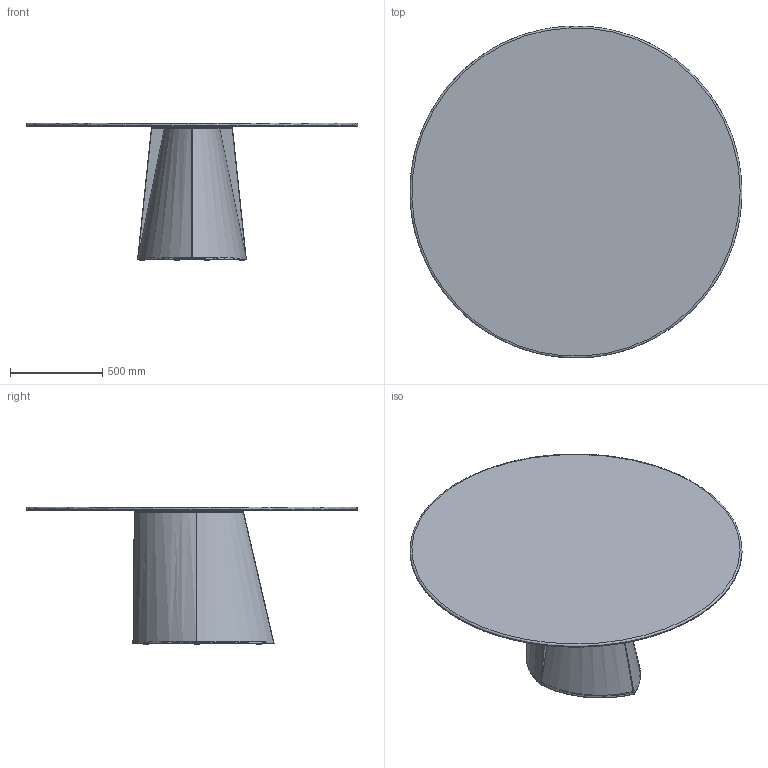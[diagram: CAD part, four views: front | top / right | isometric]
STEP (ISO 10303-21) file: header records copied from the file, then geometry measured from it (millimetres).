
FILE_DESCRIPTION(/* description */ (''),/* implementation_level */ '2;1');
FILE_NAME(/* name */ 'OGIT180_3D',/* time_stamp */ '2026-06-30T10:07:57+02:00',/* author */ (''),/* organization */ (''),/* preprocessor_version */ 'ST-DEVELOPER v16.5',/* originating_system */ '',/* authorisation */ '');
FILE_SCHEMA (('CONFIG_CONTROL_DESIGN'));
Length unit declared in the file: millimetre
Products named in the file (1): Document
Bounding box: 1799.43 x 1798.9 x 745.02 mm (x, y, z)
Volume: 42336455.6 mm3; surface area: 8799982.2 mm2
Topology: 23 solids, 23 shells, 253 faces, 511 edges, 304 vertices
Faces by surface type: plane 160, bspline 93
Entity records: 8505 total; most frequent: CARTESIAN_POINT 4865, ORIENTED_EDGE 1022, EDGE_CURVE 511, B_SPLINE_CURVE_WITH_KNOTS 360, VERTEX_POINT 304, EDGE_LOOP 273, ADVANCED_FACE 253, FACE_OUTER_BOUND 253
